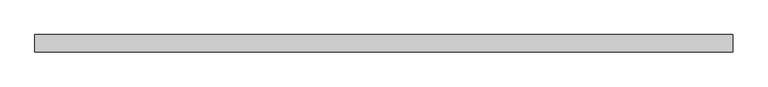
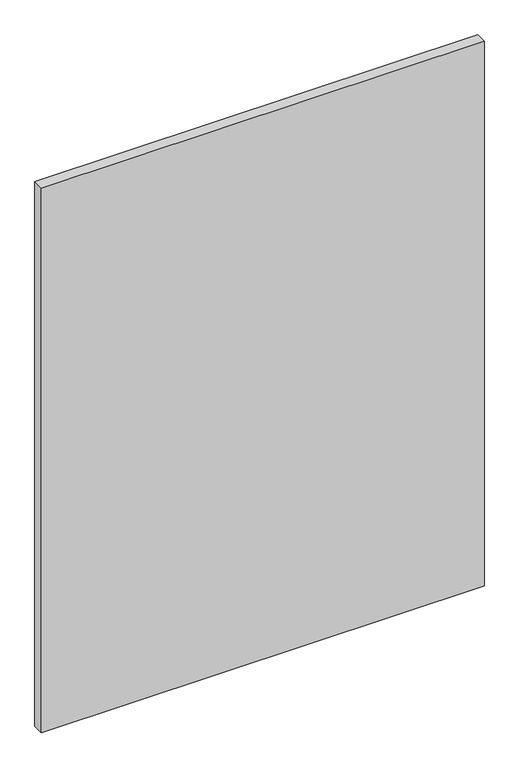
"""IFC4 building model written with IfcOpenShell, lengths in millimetres: plate geometry, Системная панель : С остеклением."""

import ifcopenshell
import ifcopenshell.guid

model = None  # the IFC model being written
_history = None  # IfcOwnerHistory: only IFC2X3 demands one
_inside = {}  # id of a spatial element -> (the spatial element, [elements in it])
_under = {}  # id of a project, library or spatial element -> (it, [spatial elements below it])
_declared = {}  # id of a project -> (the project, [libraries it declares])
_typed = {}  # id of a type object -> (the type object, [elements of that type])
_made_of = {}  # id of a material, layer set ... -> (it, [elements and type objects made of it])


def new_model(schema):
    """Start an empty IFC model of exactly this schema.

    Asked for "IFC4X3", IfcOpenShell would pick the latest addendum, in which some entities
    have other attributes; the version numbers below select the first issue.
    IFC2X3 requires an IfcOwnerHistory on every rooted entity: one is made here for all.
    """
    global model, _history
    if schema == "IFC4X3":
        model = ifcopenshell.file(schema_version=(4, 3, 0, 0))
    else:
        model = ifcopenshell.file(schema=schema)
    _inside.clear()
    _under.clear()
    _declared.clear()
    _typed.clear()
    _made_of.clear()
    _history = None
    if model.schema == "IFC2X3":
        org = make("IfcOrganization", Name="unknown")
        user = make(
            "IfcPersonAndOrganization",
            ThePerson=make("IfcPerson", FamilyName="unknown"),
            TheOrganization=org,
        )
        app = make(
            "IfcApplication",
            ApplicationDeveloper=org,
            Version="unknown",
            ApplicationFullName="unknown",
            ApplicationIdentifier="unknown",
        )
        _history = make(
            "IfcOwnerHistory",
            OwningUser=user,
            OwningApplication=app,
            ChangeAction="ADDED",
            CreationDate=0,
        )
    return model


def make(cls, **values):
    """One entity of the class cls with the attributes given. An attribute that is None is left unset."""
    return model.create_entity(
        cls, **{name: value for name, value in values.items() if value is not None}
    )


def rooted(cls, **values):
    """An entity with a GlobalId (a new one), such as an element, a storey or a relation."""
    return make(cls, GlobalId=ifcopenshell.guid.new(), OwnerHistory=_history, **values)


def si_unit(unit_type, name, prefix=None):
    """IfcSIUnit, for example si_unit("LENGTHUNIT", "METRE", prefix="MILLI")."""
    return make("IfcSIUnit", UnitType=unit_type, Prefix=prefix, Name=name)


def assignment(units):
    """IfcUnitAssignment: the units of a project."""
    return None if units is None else make("IfcUnitAssignment", Units=units)


def point(xyz):
    """IfcCartesianPoint."""
    return None if xyz is None else make("IfcCartesianPoint", Coordinates=xyz)


def direction(xyz):
    """IfcDirection."""
    return None if xyz is None else make("IfcDirection", DirectionRatios=xyz)


def frame(location, z_axis=None, x_axis=None):
    """IfcAxis2Placement3D, a coordinate frame: its origin and axes. An axis left out is left unset."""
    return make(
        "IfcAxis2Placement3D",
        Location=point(location),
        Axis=direction(z_axis),
        RefDirection=direction(x_axis),
    )


def origin():
    """The frame at (0, 0, 0) with its axes left unset."""
    return frame((0.0, 0.0, 0.0))


def origin_with_axes():
    """The frame at (0, 0, 0) with the z axis (0, 0, 1) and the x axis (1, 0, 0) written out."""
    return frame((0.0, 0.0, 0.0), z_axis=(0.0, 0.0, 1.0), x_axis=(1.0, 0.0, 0.0))


def place(relative_to, where):
    """IfcLocalPlacement: puts the frame where relative to a parent placement (None: the world)."""
    return make(
        "IfcLocalPlacement", PlacementRelTo=relative_to, RelativePlacement=where
    )


def context(
    kind, dimensions, precision=None, world=None, true_north=None, identifier=None
):
    """IfcGeometricRepresentationContext, for example the 3D "Model" context."""
    return make(
        "IfcGeometricRepresentationContext",
        ContextIdentifier=identifier,
        ContextType=kind,
        CoordinateSpaceDimension=dimensions,
        Precision=precision,
        WorldCoordinateSystem=world,
        TrueNorth=true_north,
    )


def project(units=None, contexts=None):
    """IfcProject with its units and contexts."""
    return rooted(
        "IfcProject",
        Name="project",
        RepresentationContexts=contexts,
        UnitsInContext=assignment(units),
    )


def spatial(cls, under=None, at=None, **own):
    """A site, building, storey or space (cls), placed at a placement, below another one or the project."""
    s = rooted(cls, ObjectPlacement=at, **own)
    if under is not None:
        _under.setdefault(under.id(), (under, []))[1].append(s)
    return s


def polyline(points):
    """IfcPolyline through the points."""
    return make("IfcPolyline", Points=[point(p) for p in points])


def outline(outer, holes=None, kind="AREA"):
    """IfcArbitraryClosedProfileDef: a profile drawn as a closed curve; with holes, ...WithVoids."""
    if holes is None:
        return make("IfcArbitraryClosedProfileDef", ProfileType=kind, OuterCurve=outer)
    return make(
        "IfcArbitraryProfileDefWithVoids",
        ProfileType=kind,
        OuterCurve=outer,
        InnerCurves=holes,
    )


def extrude(swept, where, along, depth):
    """IfcExtrudedAreaSolid: the profile swept, set in the frame where, extruded along a direction by depth."""
    return make(
        "IfcExtrudedAreaSolid",
        SweptArea=swept,
        Position=where,
        ExtrudedDirection=direction(along),
        Depth=depth,
    )


def shape(context_of_items, identifier, shape_type, items):
    """IfcShapeRepresentation: the items that make up one representation, for example the "Body"."""
    return make(
        "IfcShapeRepresentation",
        ContextOfItems=context_of_items,
        RepresentationIdentifier=identifier,
        RepresentationType=shape_type,
        Items=items,
    )


def source(mapping_origin, context_of_items, identifier, shape_type, items):
    """IfcRepresentationMap: a shape defined once, which mapped items show again and again."""
    return make(
        "IfcRepresentationMap",
        MappingOrigin=mapping_origin,
        MappedRepresentation=shape(context_of_items, identifier, shape_type, items),
    )


def transform(
    local_origin,
    x_axis=None,
    y_axis=None,
    z_axis=None,
    scale=None,
    scale2=None,
    scale3=None,
    uniform=True,
):
    """IfcCartesianTransformationOperator3D, or its non-uniform kind. x_axis, y_axis, z_axis: its Axis1, 2, 3."""
    if uniform:
        return make(
            "IfcCartesianTransformationOperator3D",
            Axis1=direction(x_axis),
            Axis2=direction(y_axis),
            LocalOrigin=point(local_origin),
            Scale=scale,
            Axis3=direction(z_axis),
        )
    return make(
        "IfcCartesianTransformationOperator3DnonUniform",
        Axis1=direction(x_axis),
        Axis2=direction(y_axis),
        LocalOrigin=point(local_origin),
        Scale=scale,
        Axis3=direction(z_axis),
        Scale2=scale2,
        Scale3=scale3,
    )


def mapped(mapping_source, mapping_target):
    """IfcMappedItem: shows the shape of a source again, moved by a transform."""
    return make(
        "IfcMappedItem", MappingSource=mapping_source, MappingTarget=mapping_target
    )


def made_of(thing, what):
    """Note that an element or type object is made of a material, layer set ...; save() writes the relation."""
    if what is not None:
        _made_of.setdefault(what.id(), (what, []))[1].append(thing)
    return thing


def element(
    cls,
    number,
    at=None,
    inside=None,
    cuts=None,
    type_object=None,
    material=None,
    context=None,
    identifier="Body",
    shape_type=None,
    held_by="IfcProductDefinitionShape",
    body=None,
    shapes=None,
    **own,
):
    """One element of the class cls, such as IfcWall. Its Tag is "e" and its number.

    at: its placement. inside: the storey or other place that contains it. cuts: it is an
    opening in that element (IfcRelVoidsElement). A single representation is given by context,
    identifier, shape_type and body (its items); several are given by shapes. held_by: the class
    of the entity that holds the representations. save() writes the other relations.
    """
    e = rooted(cls, Tag="e%d" % number, ObjectPlacement=at, **own)
    if body is not None:
        shapes = [shape(context, identifier, shape_type, body)]
    if shapes is not None:
        e.Representation = make(held_by, Representations=shapes)
    if inside is not None:
        _inside.setdefault(inside.id(), (inside, []))[1].append(e)
    if cuts is not None:
        rooted(
            "IfcRelVoidsElement", RelatingBuildingElement=cuts, RelatedOpeningElement=e
        )
    if type_object is not None:
        _typed.setdefault(type_object.id(), (type_object, []))[1].append(e)
    return made_of(e, material)


def aggregate(whole, parts):
    """IfcRelAggregates: a whole, such as a stair, and the parts it consists of."""
    return rooted("IfcRelAggregates", RelatingObject=whole, RelatedObjects=parts)


def save(model, path):
    """Write the relations noted so far, then the file.

    IfcRelAggregates (storeys below a building ...), IfcRelContainedInSpatialStructure (elements
    in a storey), IfcRelDefinesByType, IfcRelAssociatesMaterial and IfcRelDeclares: one each for
    every whole, place, type object, material and project.
    """
    for whole, parts in _under.values():
        aggregate(whole, parts)
    for where, things in _inside.values():
        rooted(
            "IfcRelContainedInSpatialStructure",
            RelatedElements=things,
            RelatingStructure=where,
        )
    for kind, things in _typed.values():
        rooted("IfcRelDefinesByType", RelatedObjects=things, RelatingType=kind)
    for what, things in _made_of.values():
        rooted("IfcRelAssociatesMaterial", RelatedObjects=things, RelatingMaterial=what)
    for by, libraries in _declared.values():
        rooted("IfcRelDeclares", RelatingContext=by, RelatedDefinitions=libraries)
    model.write(path)


def plate_abcce4dd(model_context):
    return source(origin(), model_context, "Body", "SweptSolid", [
        extrude(outline(polyline([(500.0, -49.5), (-500.0, -49.5), (-500.0, -24.5), (500.0, -24.5), (500.0, -49.5)])), origin_with_axes(), (0.0, 0.0, 1.0), 1300.0),
    ])


if __name__ == "__main__":
    model = new_model("IFC4")
    model_context = context("Model", 3, world=origin())
    ifc_project = project(units=[si_unit("LENGTHUNIT", "METRE", prefix="MILLI")], contexts=[model_context])
    site = spatial("IfcSite", under=ifc_project)
    building = spatial("IfcBuilding", under=site)
    placement = place(None, origin())
    plate_shape = plate_abcce4dd(model_context)
    element("IfcPlate", 1, ObjectType="Системная панель : С остеклением", at=placement, inside=building, context=model_context, shape_type="MappedRepresentation", body=[
        mapped(plate_shape, transform((0.0, 0.0, 0.0), x_axis=(1.0, 0.0, 0.0), y_axis=(0.0, 1.0, 0.0), z_axis=(0.0, 0.0, 1.0))),
    ])
    save(model, "model.ifc")
